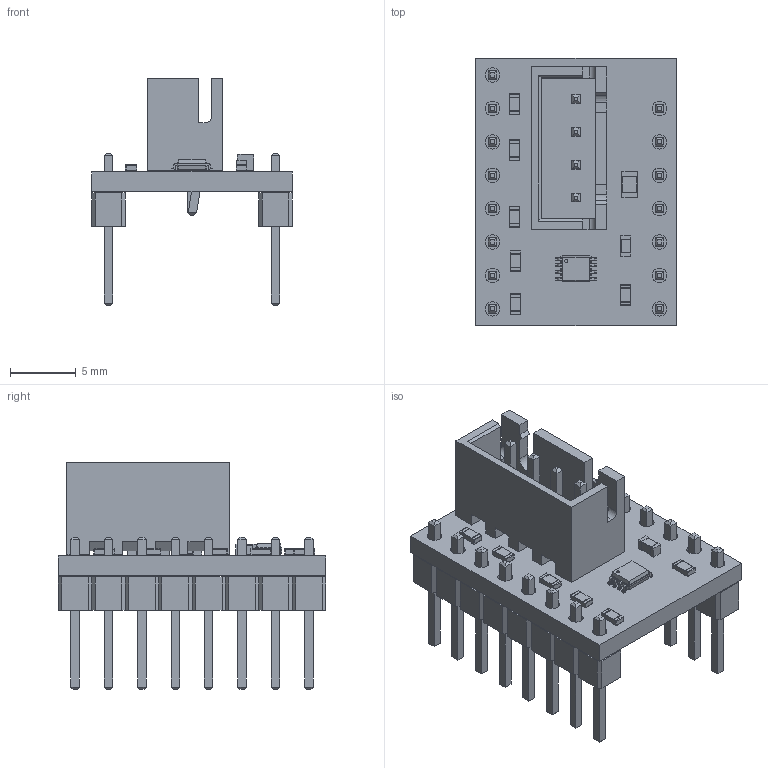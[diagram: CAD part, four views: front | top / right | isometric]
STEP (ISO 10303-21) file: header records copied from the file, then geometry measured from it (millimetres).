
FILE_DESCRIPTION(('KiCad electronic assembly'),'2;1');
FILE_NAME('adapter-assembly-review.step','2026-10-05T23:12:43',('Pcbnew' ),('Kicad'),'Open CASCADE STEP processor 7.9', 'KiCad to STEP converter','Unknown');
FILE_SCHEMA(('AUTOMOTIVE_DESIGN { 1 0 10303 214 1 1 1 1 }'));
Length unit declared in the file: millimetre
Products named in the file (16): adapter-assembly-review 1; R_0603_1608Metric; C_0805_2012Metric; JST_XH_B4B-XH-A_1x04_P2.50mm_Vertical; JST_B4B_XH_A; VSSOP-8_2.3x2mm_P0.5mm; C_0603_1608Metric; PinHeader_1x08_P2.54mm_Vertical; PinHeader_1x08_P254mm_Vertical; PinHeader_1x07_P2.54mm_Vertical; PinHeader_1x07_P254mm_Vertical; adapter_PCB
Assembly tree (20 placements, depth 3):
  adapter-assembly-review 1
    R_0603_1608Metric  x6
      R_0603_1608Metric
    C_0805_2012Metric
      C_0805_2012Metric
    JST_XH_B4B-XH-A_1x04_P2.50mm_Vertical
      JST_B4B_XH_A
    VSSOP-8_2.3x2mm_P0.5mm
      VSSOP-8_2.3x2mm_P0.5mm
    C_0603_1608Metric
      C_0603_1608Metric
    PinHeader_1x08_P2.54mm_Vertical
      PinHeader_1x08_P254mm_Vertical
    PinHeader_1x07_P2.54mm_Vertical
      PinHeader_1x07_P254mm_Vertical
    adapter_PCB
Bounding box: 15.24 x 20.32 x 17.22 mm (x, y, z)
Volume: 995.4 mm3; surface area: 2246.8 mm2
Topology: 13 solids, 13 shells, 893 faces, 2263 edges, 1439 vertices
Faces by surface type: plane 750, cylinder 127, bspline 16
Full cylindrical faces by diameter (mm): 0.95 x4, 1.1 x15
Entity records: 28141 total; most frequent: CARTESIAN_POINT 3998, ORIENTED_EDGE 3845, DIRECTION 3610, EDGE_CURVE 1923, LINE 1724, VECTOR 1724, VERTEX_POINT 1219, AXIS2_PLACEMENT_3D 943
